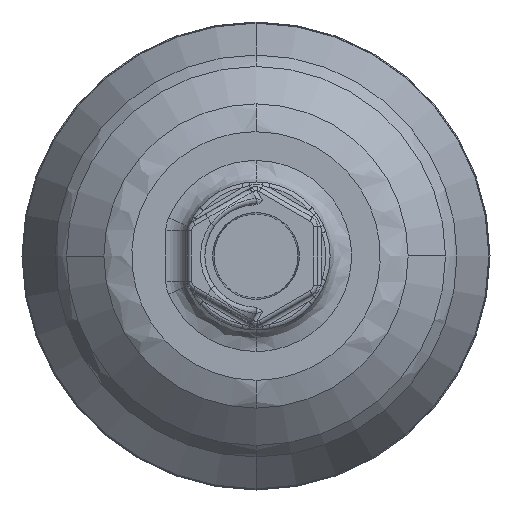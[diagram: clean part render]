
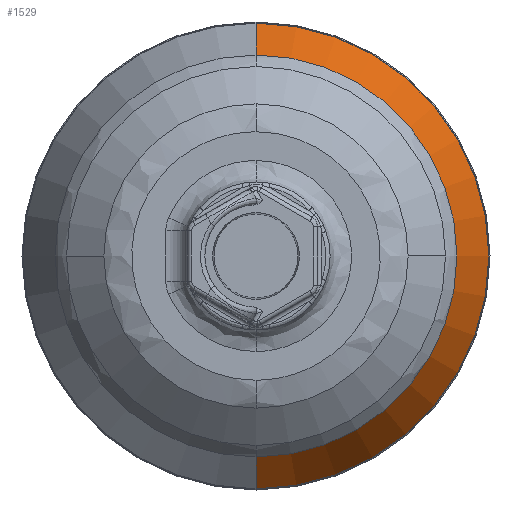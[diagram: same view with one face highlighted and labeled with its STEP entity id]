
A CAD part, front view. The second image highlights one B-rep face of the part: STEP entity #1529.
In plain terms, the highlighted conical face has half-angle 25 degrees and reference radius 68.326 mm.
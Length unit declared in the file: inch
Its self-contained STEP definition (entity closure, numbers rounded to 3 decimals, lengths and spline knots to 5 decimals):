
#3 = DIRECTION ( 'NONE',  ( 0., 0., 1. ) ) ;
#542 = ORIENTED_EDGE ( 'NONE', *, *, #1107, .T. ) ;
#1107 = EDGE_CURVE ( 'NONE', #10064, #4664, #2249, .T. ) ;
#1529 = ADVANCED_FACE ( 'NONE', ( #10275 ), #9831, .T. ) ;
#1824 = VERTEX_POINT ( 'NONE', #11200 ) ;
#2249 = LINE ( 'NONE', #17312, #9617 ) ;
#2590 = CARTESIAN_POINT ( 'NONE',  ( 0., 0., -2.69 ) ) ;
#3362 = CARTESIAN_POINT ( 'NONE',  ( 0., -0.79954, -2.31717 ) ) ;
#3890 = EDGE_CURVE ( 'NONE', #4664, #16145, #13312, .T. ) ;
#4664 = VERTEX_POINT ( 'NONE', #2590 ) ;
#5647 = CARTESIAN_POINT ( 'NONE',  ( 0., 0., 0. ) ) ;
#7330 = AXIS2_PLACEMENT_3D ( 'NONE', #5647, #9742, #10371 ) ;
#8073 = DIRECTION ( 'NONE',  ( 0., -1., 0. ) ) ;
#8324 = DIRECTION ( 'NONE',  ( 0., 1., 0. ) ) ;
#8858 = EDGE_CURVE ( 'NONE', #1824, #16145, #17385, .T. ) ;
#9617 = VECTOR ( 'NONE', #16258, 39.37008 ) ;
#9742 = DIRECTION ( 'NONE',  ( 0., 1., 0. ) ) ;
#9831 = CONICAL_SURFACE ( 'NONE', #7330, 2.69, 0.436 ) ;
#10064 = VERTEX_POINT ( 'NONE', #3362 ) ;
#10230 = AXIS2_PLACEMENT_3D ( 'NONE', #16371, #8073, #17757 ) ;
#10275 = FACE_OUTER_BOUND ( 'NONE', #17127, .T. ) ;
#10353 = EDGE_CURVE ( 'NONE', #1824, #10064, #12412, .T. ) ;
#10371 = DIRECTION ( 'NONE',  ( 0., 0., 1. ) ) ;
#11200 = CARTESIAN_POINT ( 'NONE',  ( 0., -0.79954, 2.31717 ) ) ;
#12101 = ORIENTED_EDGE ( 'NONE', *, *, #3890, .T. ) ;
#12412 = CIRCLE ( 'NONE', #15663, 2.31717 ) ;
#12959 = ORIENTED_EDGE ( 'NONE', *, *, #10353, .T. ) ;
#13312 = CIRCLE ( 'NONE', #10230, 2.69 ) ;
#13671 = VECTOR ( 'NONE', #17262, 39.37008 ) ;
#15663 = AXIS2_PLACEMENT_3D ( 'NONE', #16623, #8324, #3 ) ;
#15881 = CARTESIAN_POINT ( 'NONE',  ( 0., 0., 2.69 ) ) ;
#16145 = VERTEX_POINT ( 'NONE', #16347 ) ;
#16258 = DIRECTION ( 'NONE',  ( 0., 0.906, -0.423 ) ) ;
#16347 = CARTESIAN_POINT ( 'NONE',  ( 0., 0., 2.69 ) ) ;
#16357 = ORIENTED_EDGE ( 'NONE', *, *, #8858, .F. ) ;
#16371 = CARTESIAN_POINT ( 'NONE',  ( 0., 0., 0. ) ) ;
#16623 = CARTESIAN_POINT ( 'NONE',  ( 0., -0.79954, 0. ) ) ;
#17127 = EDGE_LOOP ( 'NONE', ( #12959, #542, #12101, #16357 ) ) ;
#17262 = DIRECTION ( 'NONE',  ( 0., 0.906, 0.423 ) ) ;
#17312 = CARTESIAN_POINT ( 'NONE',  ( 0., 0., -2.69 ) ) ;
#17385 = LINE ( 'NONE', #15881, #13671 ) ;
#17757 = DIRECTION ( 'NONE',  ( 0., 0., 1. ) ) ;
